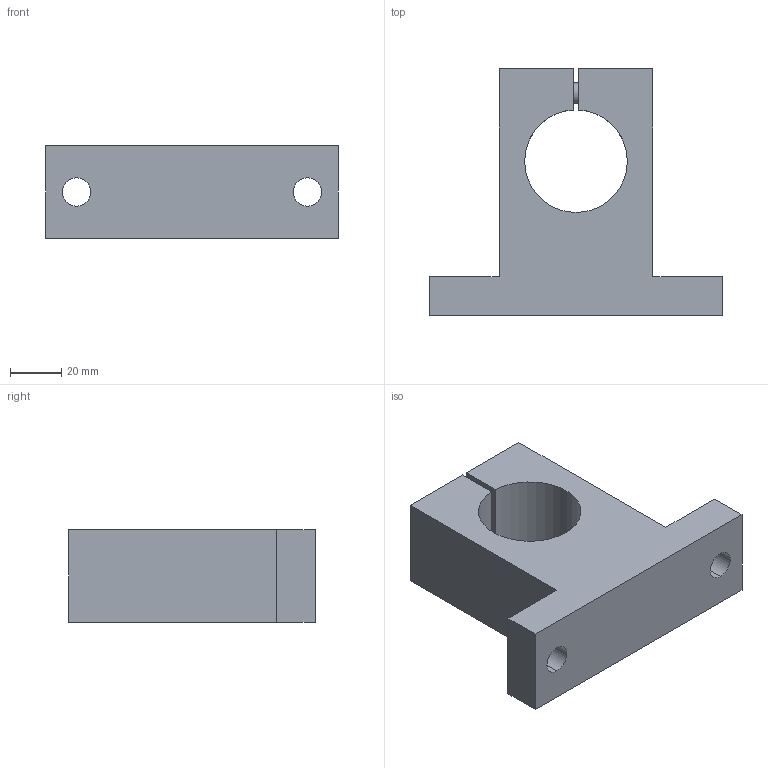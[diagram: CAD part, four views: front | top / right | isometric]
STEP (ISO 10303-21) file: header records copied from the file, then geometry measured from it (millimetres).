
FILE_DESCRIPTION (( 'STEP AP214' ), '1' );
FILE_NAME ('2.7115 Akselin päätykiinnike SK40.STEP', '2024-06-12T10:43:54', ( '' ), ( '' ), 'SwSTEP 2.0', 'SolidWorks 2024', '' );
FILE_SCHEMA (( 'AUTOMOTIVE_DESIGN' ));
Length unit declared in the file: millimetre
Products named in the file (1): 2.7115 Akselin päätykiinnike SK40
Bounding box: 114 x 96 x 36 mm (x, y, z)
Volume: 187179.5 mm3; surface area: 32282.5 mm2
Topology: 1 solids, 1 shells, 36 faces, 91 edges, 60 vertices
Faces by surface type: plane 22, cylinder 12, cone 2
Entity records: 1120 total; most frequent: DIRECTION 191, CARTESIAN_POINT 188, ORIENTED_EDGE 182, EDGE_CURVE 91, LINE 65, VECTOR 65, AXIS2_PLACEMENT_3D 63, VERTEX_POINT 60
